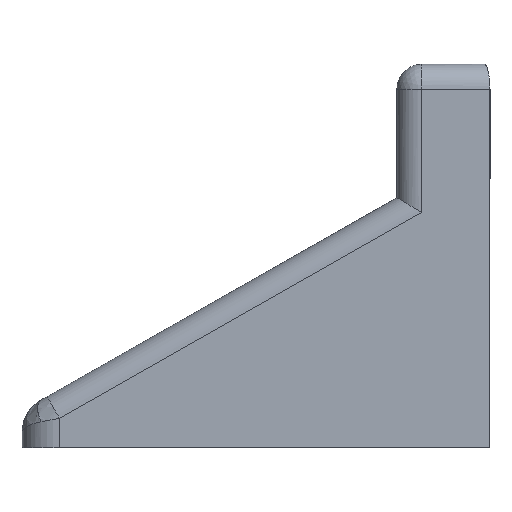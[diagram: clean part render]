
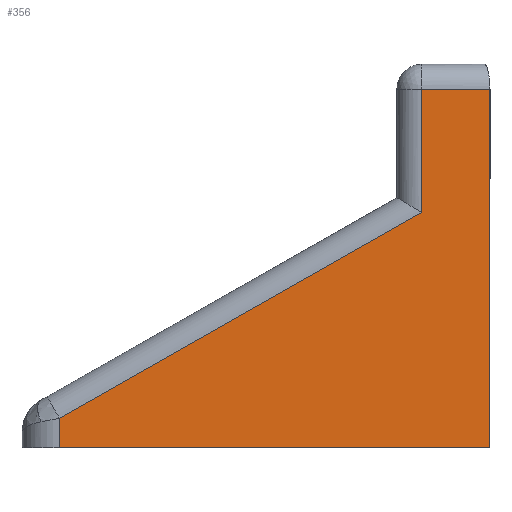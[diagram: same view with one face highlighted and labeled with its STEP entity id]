
A CAD part, front view. The second image highlights one B-rep face of the part: STEP entity #356.
In plain terms, the highlighted planar face has unit normal (0, -1, 0).
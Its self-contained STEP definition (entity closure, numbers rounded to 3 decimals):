
#29=PLANE('',#400);
#43=FACE_OUTER_BOUND('',#67,.T.);
#67=EDGE_LOOP('',(#254,#255,#256,#257,#258,#259));
#101=LINE('',#567,#127);
#106=LINE('',#599,#132);
#107=LINE('',#601,#133);
#108=LINE('',#603,#134);
#109=LINE('',#605,#135);
#110=LINE('',#606,#136);
#127=VECTOR('',#440,10.);
#132=VECTOR('',#465,10.);
#133=VECTOR('',#466,10.);
#134=VECTOR('',#467,10.);
#135=VECTOR('',#468,10.);
#136=VECTOR('',#469,10.);
#154=VERTEX_POINT('',#551);
#157=VERTEX_POINT('',#565);
#164=VERTEX_POINT('',#598);
#165=VERTEX_POINT('',#600);
#166=VERTEX_POINT('',#602);
#167=VERTEX_POINT('',#604);
#187=EDGE_CURVE('',#157,#154,#101,.T.);
#198=EDGE_CURVE('',#164,#157,#106,.T.);
#199=EDGE_CURVE('',#165,#164,#107,.T.);
#200=EDGE_CURVE('',#166,#165,#108,.T.);
#201=EDGE_CURVE('',#167,#166,#109,.T.);
#202=EDGE_CURVE('',#167,#154,#110,.T.);
#254=ORIENTED_EDGE('',*,*,#187,.F.);
#255=ORIENTED_EDGE('',*,*,#198,.F.);
#256=ORIENTED_EDGE('',*,*,#199,.F.);
#257=ORIENTED_EDGE('',*,*,#200,.F.);
#258=ORIENTED_EDGE('',*,*,#201,.F.);
#259=ORIENTED_EDGE('',*,*,#202,.T.);
#356=ADVANCED_FACE('',(#43),#29,.T.);
#400=AXIS2_PLACEMENT_3D('',#597,#463,#464);
#440=DIRECTION('',(1.,0.,0.));
#463=DIRECTION('center_axis',(0.,-1.,0.));
#464=DIRECTION('ref_axis',(1.,0.,0.));
#465=DIRECTION('',(0.,0.,1.));
#466=DIRECTION('',(0.869,0.,0.494));
#467=DIRECTION('',(0.,0.,1.));
#468=DIRECTION('',(-1.,0.,0.));
#469=DIRECTION('',(0.,0.,1.));
#551=CARTESIAN_POINT('',(2.45,-10.,28.7));
#565=CARTESIAN_POINT('',(-3.,-10.,28.7));
#567=CARTESIAN_POINT('',(-2.5,-10.,28.7));
#597=CARTESIAN_POINT('Origin',(-5.,-10.,0.));
#598=CARTESIAN_POINT('',(-3.,-10.,18.836));
#599=CARTESIAN_POINT('',(-3.,-10.,0.));
#600=CARTESIAN_POINT('',(-32.,-10.,2.359));
#601=CARTESIAN_POINT('',(-8.307,-10.,15.821));
#602=CARTESIAN_POINT('',(-32.,-10.,0.));
#603=CARTESIAN_POINT('',(-32.,-10.,5.));
#604=CARTESIAN_POINT('',(2.45,-10.,0.));
#605=CARTESIAN_POINT('',(-5.,-10.,0.));
#606=CARTESIAN_POINT('',(2.45,-10.,30.7));
